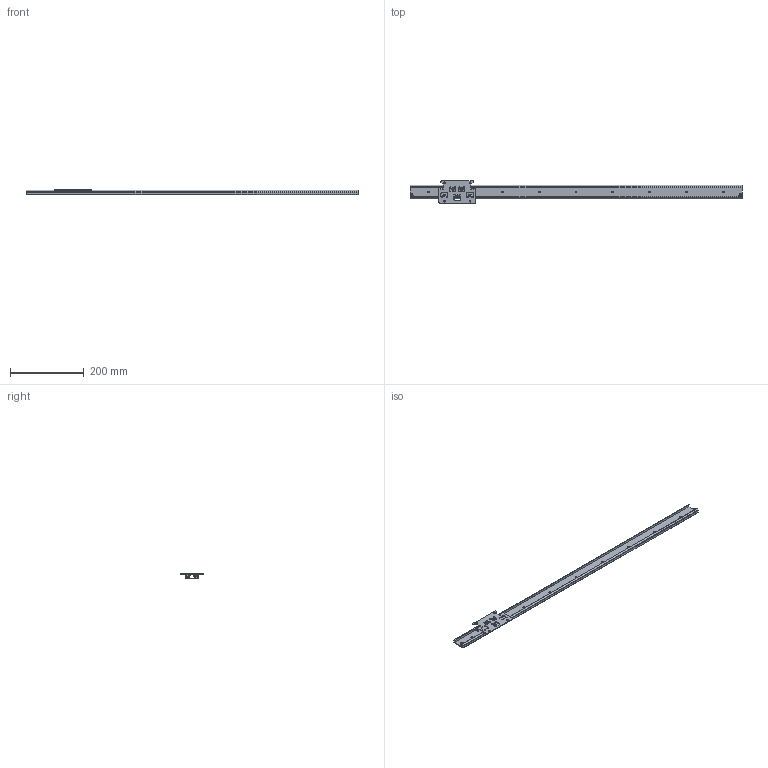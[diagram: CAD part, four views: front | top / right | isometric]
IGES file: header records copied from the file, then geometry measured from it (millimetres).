
Global section: native system: Kubotek KeyCreator; preprocessor: KCM Version 1.1.1442.0; author: KeyCreator User; organization: Self; date: 20181022.110404; units: millimetre
Bounding box: 900 x 60 x 14.8 mm (x, y, z)
Surface area: 125756.6 mm2 (no closed solid volume)
Topology: 0 solids, 0 shells, 939 faces, 6283 edges, 6284 vertices
Faces by surface type: bspline 939
